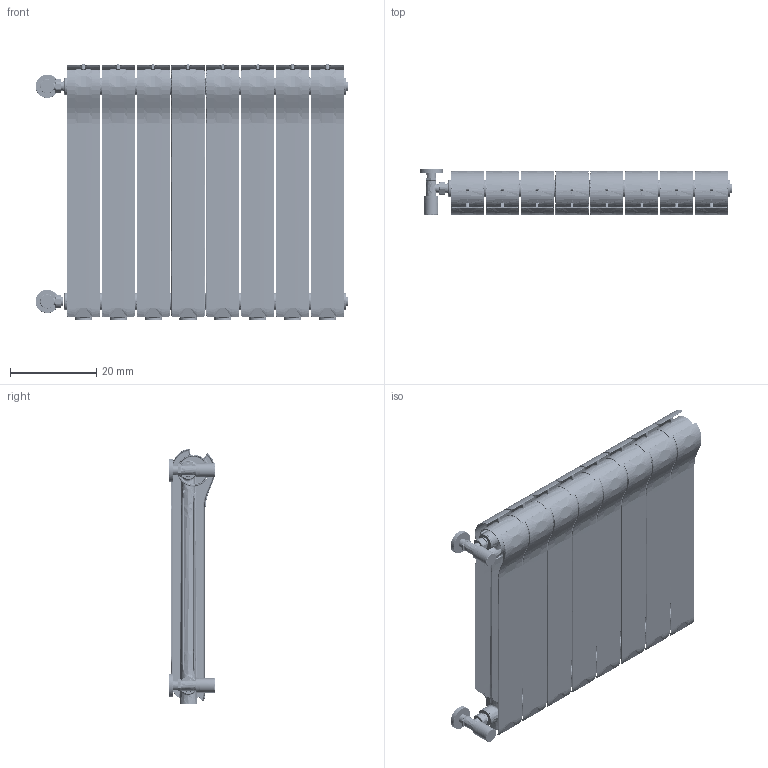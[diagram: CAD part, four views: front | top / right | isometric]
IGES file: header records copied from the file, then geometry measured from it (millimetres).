
Start section: extremeSW_side view 1..SLDPRT - PrototypeComponentType extremeSW_side view 1..SLDPRT - PrototypeComponentType uno HALF CLOSED..SLDPRT - PrototypeComponentType uno HALF CLOSED..SLDPRT - PrototypeComponentType uno HALF CLOSED..SLDPRT - PrototypeComponentType uno HALF CLOSED..SLDPRT - PrototypeComponentType uno FULL CLOSED..SLDPRT - PrototypeComponentType uno FULL CLOSED..SLDPRT - PrototypeComponentT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
Global section: file name: C:\Users\Sandro\Desktop\ottimo.igs; native system: Rhinoceros ( Feb 13 2014 ); preprocessor: Trout Lake IGES 012 Feb 13 2014; date: 170113.132605; units: millimetre
Bounding box: 72.68 x 10.85 x 59.26 mm (x, y, z)
Surface area: 35780.2 mm2 (no closed solid volume)
Topology: 0 solids, 0 shells, 7479 faces, 43314 edges, 42652 vertices
Faces by surface type: bspline 7479
